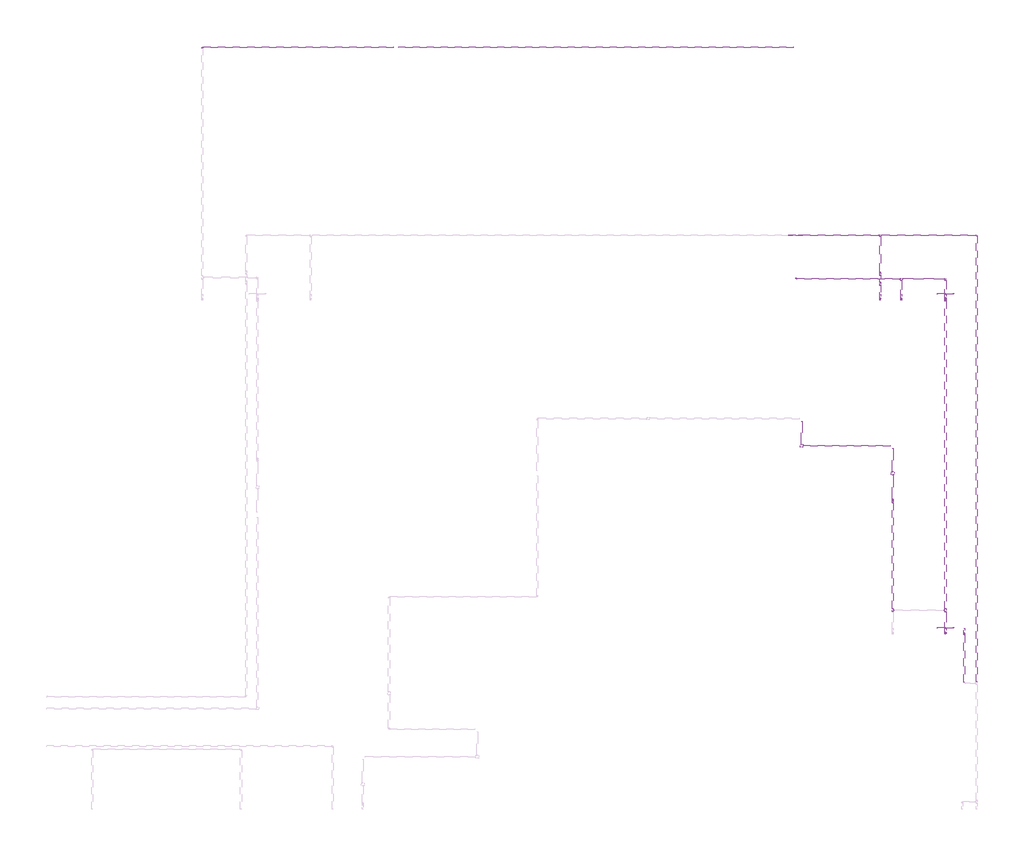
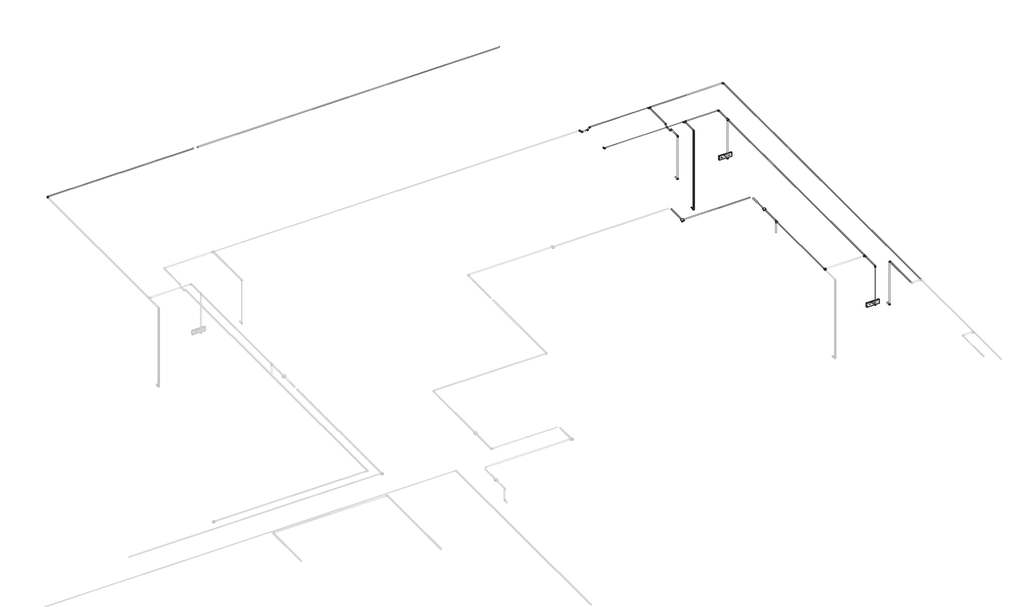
# One storey, part 13 of 13: 36 cable carrier segments, 27 cable carrier fittings, 4 alarms.
"""IFC4 building model written with IfcOpenShell, lengths in millimetres."""

from ifc_helpers import new_model, si_unit, point, frame, frame_2d, origin, place, context, project, spatial, circle_curve, trimmed, segment, composite_curve, outline, extrude, transform, mapped, element, save
from components import alarm_4b7e8fd8, alarm_a2247946, cable_carrier_fitting_69f1a801, cable_carrier_fitting_8122f9af, cable_carrier_fitting_8fd13dfc

model = new_model("IFC4")

# Units and contexts
model_context = context("Model", 3, world=origin())
ifc_project = project(units=[si_unit("LENGTHUNIT", "METRE", prefix="MILLI")], contexts=[model_context])

# Site, building, storey
site = spatial("IfcSite", under=ifc_project)
building = spatial("IfcBuilding", under=site)
storey = spatial("IfcBuildingStorey", under=building, Name="2 этаж", Elevation=3500.0)

# Alarms
placement = place(None, origin())
alarm_shape = alarm_4b7e8fd8(model_context)
element("IfcAlarm", 1, ObjectType="RBZ_Оповещатель_Световой_Рубеж_ОПОП1-R3(грань) : ОПОП 1-R3 \"Выход\"", at=placement, inside=storey, context=model_context, shape_type="MappedRepresentation", body=[
    mapped(alarm_shape, transform((19112.6759979, 12704.6370105, 6000.0), x_axis=(-1.0, 0.0, 0.0), y_axis=(0.0, 0.0, 1.0), z_axis=(0.0, 1.0, 0.0))),
])
element("IfcAlarm", 2, ObjectType="RBZ_Оповещатель_Световой_Рубеж_ОПОП1-R3(грань) : ОПОП 1-R3 \"Выход\"", at=placement, inside=storey, context=model_context, shape_type="MappedRepresentation", body=[
    mapped(alarm_shape, transform((19112.6759979, 6624.6370105, 6000.0), x_axis=(-1.0, 0.0, 0.0), y_axis=(0.0, 0.0, 1.0), z_axis=(0.0, 1.0, 0.0))),
])
alarm_2_shape = alarm_a2247946(model_context)
element("IfcAlarm", 3, ObjectType="RBZ_ИзоляторШлейфа_Рубеж_ИЗ-1_прот.R3(плоскость) : ИЗ-1 прот.R3", at=placement, inside=storey, context=model_context, shape_type="MappedRepresentation", body=[
    mapped(alarm_2_shape, transform((16495.1759979, 9944.6370105, 6997.7), x_axis=(1.0, 0.0, 0.0), y_axis=(0.0, 1.0, 0.0), z_axis=(0.0, 0.0, 1.0))),
])
element("IfcAlarm", 4, ObjectType="RBZ_ИзоляторШлейфа_Рубеж_ИЗ-1_прот.R3(плоскость) : ИЗ-1 прот.R3", at=placement, inside=storey, context=model_context, shape_type="MappedRepresentation", body=[
    mapped(alarm_2_shape, transform((18152.6759979, 9444.6370105, 6997.7), x_axis=(1.0, 0.0, 0.0), y_axis=(0.0, 1.0, 0.0), z_axis=(0.0, 0.0, 1.0))),
])

# Cable carrier fittings
cable_carrier_fitting_shape = cable_carrier_fitting_69f1a801(model_context)
element("IfcCableCarrierFitting", 5, ObjectType="ADSK_Поворот_Минимальный размер : Неспецифицируемый", at=placement, inside=storey, context=model_context, shape_type="MappedRepresentation", body=[
    mapped(cable_carrier_fitting_shape, transform((16387.6759979, 12984.6370105, 6986.9498328), x_axis=(0.0, -1.0, 0.0), y_axis=(1.0, 0.0, 0.0), z_axis=(0.0, 0.0, 1.0))),
])
element("IfcCableCarrierFitting", 6, ObjectType="ADSK_Поворот_Минимальный размер : Неспецифицируемый", at=placement, inside=storey, context=model_context, shape_type="MappedRepresentation", body=[
    mapped(cable_carrier_fitting_shape, transform((5582.6759979, 17204.6370105, 6986.95), x_axis=(-1.0, 0.0, 0.0), y_axis=(0.0, -1.0, 0.0), z_axis=(0.0, 0.0, 1.0))),
])
element("IfcCableCarrierFitting", 7, ObjectType="ADSK_Поворот_Минимальный размер : Неспецифицируемый", at=placement, inside=storey, context=model_context, shape_type="MappedRepresentation", body=[
    mapped(cable_carrier_fitting_shape, transform((19682.6759979, 13781.6519004, 6990.0), x_axis=(0.0, 1.0, 0.0), y_axis=(-1.0, 0.0, 0.0), z_axis=(0.0, 0.0, 1.0))),
])
element("IfcCableCarrierFitting", 8, ObjectType="ADSK_Поворот_Минимальный размер : Неспецифицируемый", at=placement, inside=storey, context=model_context, shape_type="MappedRepresentation", body=[
    mapped(cable_carrier_fitting_shape, transform((17922.6759979, 12607.4372049, 5897.4861504), x_axis=(0.0, -1.0, 0.0), y_axis=(0.0, 0.0, 1.0), z_axis=(-1.0, 0.0, 0.0))),
])
element("IfcCableCarrierFitting", 9, ObjectType="ADSK_Поворот_Минимальный размер : Неспецифицируемый", at=placement, inside=storey, context=model_context, shape_type="MappedRepresentation", body=[
    mapped(cable_carrier_fitting_shape, transform((17922.6759979, 12607.4372049, 6990.0), x_axis=(0.0, 0.0, 1.0), y_axis=(0.0, 1.0, 0.0), z_axis=(-1.0, 0.0, 0.0))),
])
element("IfcCableCarrierFitting", 10, ObjectType="ADSK_Поворот_Минимальный размер : Неспецифицируемый", at=placement, inside=storey, context=model_context, shape_type="MappedRepresentation", body=[
    mapped(cable_carrier_fitting_shape, transform((19452.6759979, 6527.4372049, 5897.4861504), x_axis=(0.0, -1.0, 0.0), y_axis=(0.0, 0.0, 1.0), z_axis=(-1.0, 0.0, 0.0))),
])
element("IfcCableCarrierFitting", 11, ObjectType="ADSK_Поворот_Минимальный размер : Неспецифицируемый", at=placement, inside=storey, context=model_context, shape_type="MappedRepresentation", body=[
    mapped(cable_carrier_fitting_shape, transform((19452.6759979, 6527.4372049, 6990.0), x_axis=(0.0, 0.0, 1.0), y_axis=(0.0, -1.0, 0.0), z_axis=(1.0, 0.0, 0.0))),
])
element("IfcCableCarrierFitting", 12, ObjectType="ADSK_Поворот_Минимальный размер : Неспецифицируемый", at=placement, inside=storey, context=model_context, shape_type="MappedRepresentation", body=[
    mapped(cable_carrier_fitting_shape, transform((19112.6759979, 6527.4372049, 6000.0), x_axis=(0.0, -1.0, 0.0), y_axis=(0.0, 0.0, 1.0), z_axis=(-1.0, 0.0, 0.0))),
])
element("IfcCableCarrierFitting", 13, ObjectType="ADSK_Поворот_Минимальный размер : Неспецифицируемый", at=placement, inside=storey, context=model_context, shape_type="MappedRepresentation", body=[
    mapped(cable_carrier_fitting_shape, transform((19112.6759979, 6527.4372049, 6986.9498328), x_axis=(0.0, 0.0, 1.0), y_axis=(0.0, 1.0, 0.0), z_axis=(-1.0, 0.0, 0.0))),
])
element("IfcCableCarrierFitting", 14, ObjectType="ADSK_Поворот_Минимальный размер : Неспецифицируемый", at=placement, inside=storey, context=model_context, shape_type="MappedRepresentation", body=[
    mapped(cable_carrier_fitting_shape, transform((19112.6759979, 12607.4372049, 6000.0), x_axis=(0.0, -1.0, 0.0), y_axis=(0.0, 0.0, 1.0), z_axis=(-1.0, 0.0, 0.0))),
])
element("IfcCableCarrierFitting", 15, ObjectType="ADSK_Поворот_Минимальный размер : Неспецифицируемый", at=placement, inside=storey, context=model_context, shape_type="MappedRepresentation", body=[
    mapped(cable_carrier_fitting_shape, transform((19112.6759979, 12984.6370105, 6986.9498328), x_axis=(0.0, 1.0, 0.0), y_axis=(-1.0, 0.0, 0.0), z_axis=(0.0, 0.0, 1.0))),
])
element("IfcCableCarrierFitting", 16, ObjectType="ADSK_Поворот_Минимальный размер : Неспецифицируемый", at=placement, inside=storey, context=model_context, shape_type="MappedRepresentation", body=[
    mapped(cable_carrier_fitting_shape, transform((18305.1759979, 12607.4372049, 5000.0), x_axis=(0.0, -1.0, 0.0), y_axis=(0.0, 0.0, 1.0), z_axis=(-1.0, 0.0, 0.0))),
])
element("IfcCableCarrierFitting", 17, ObjectType="ADSK_Поворот_Минимальный размер : Неспецифицируемый", at=placement, inside=storey, context=model_context, shape_type="MappedRepresentation", body=[
    mapped(cable_carrier_fitting_shape, transform((18305.1759979, 12607.4372049, 6986.9498328), x_axis=(0.0, 0.0, 1.0), y_axis=(0.0, 1.0, 0.0), z_axis=(-1.0, 0.0, 0.0))),
])
cable_carrier_fitting_2_shape = cable_carrier_fitting_8122f9af(model_context)
element("IfcCableCarrierFitting", 18, ObjectType="ADSK_Поворот_Минимальный размер : Неспецифицируемый", at=placement, inside=storey, context=model_context, shape_type="MappedRepresentation", body=[
    mapped(cable_carrier_fitting_2_shape, transform((17922.6759979, 13101.2092818, 6990.0), x_axis=(0.0, -1.0, 0.0), y_axis=(0.0, 0.0, -1.0), z_axis=(1.0, 0.0, 0.0))),
])
element("IfcCableCarrierFitting", 19, ObjectType="ADSK_Поворот_Минимальный размер : Неспецифицируемый", at=placement, inside=storey, context=model_context, shape_type="MappedRepresentation", body=[
    mapped(cable_carrier_fitting_2_shape, transform((17922.6759979, 13051.2092818, 6940.0), x_axis=(0.0, -0.7071067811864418, -0.7071067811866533), y_axis=(0.0, -0.7071067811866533, 0.7071067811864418), z_axis=(-1.0, 0.0, 0.0))),
])
element("IfcCableCarrierFitting", 20, ObjectType="ADSK_Поворот_Минимальный размер : Неспецифицируемый", at=placement, inside=storey, context=model_context, shape_type="MappedRepresentation", body=[
    mapped(cable_carrier_fitting_2_shape, transform((17922.6759979, 12918.0647393, 6940.0), x_axis=(0.0, -1.0, 0.0), y_axis=(0.0, 0.0, 1.0), z_axis=(-1.0, 0.0, 0.0))),
])
element("IfcCableCarrierFitting", 21, ObjectType="ADSK_Поворот_Минимальный размер : Неспецифицируемый", at=placement, inside=storey, context=model_context, shape_type="MappedRepresentation", body=[
    mapped(cable_carrier_fitting_2_shape, transform((17922.6759979, 12868.0647393, 6990.0), x_axis=(0.0, -0.7071067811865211, 0.707106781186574), y_axis=(0.0, -0.707106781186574, -0.7071067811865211), z_axis=(1.0, 0.0, 0.0))),
])
element("IfcCableCarrierFitting", 22, ObjectType="ADSK_Поворот_Минимальный размер : Неспецифицируемый", at=placement, inside=storey, context=model_context, shape_type="MappedRepresentation", body=[
    mapped(cable_carrier_fitting_2_shape, transform((16271.1037266, 13781.6519004, 6990.0), x_axis=(1.0, 0.0, 0.0), y_axis=(0.0, 0.0, -1.0), z_axis=(0.0, 1.0, 0.0))),
])
element("IfcCableCarrierFitting", 23, ObjectType="ADSK_Поворот_Минимальный размер : Неспецифицируемый", at=placement, inside=storey, context=model_context, shape_type="MappedRepresentation", body=[
    mapped(cable_carrier_fitting_2_shape, transform((16321.1037266, 13781.6519004, 6940.0), x_axis=(0.70710678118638, 0.0, -0.707106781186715), y_axis=(0.707106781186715, 0.0, 0.70710678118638), z_axis=(0.0, -1.0, 0.0))),
])
element("IfcCableCarrierFitting", 24, ObjectType="ADSK_Поворот_Минимальный размер : Неспецифицируемый", at=placement, inside=storey, context=model_context, shape_type="MappedRepresentation", body=[
    mapped(cable_carrier_fitting_2_shape, transform((16454.2482691, 13781.6519004, 6940.0), x_axis=(1.0, 0.0, 0.0), y_axis=(0.0, 0.0, 1.0), z_axis=(0.0, -1.0, 0.0))),
])
element("IfcCableCarrierFitting", 25, ObjectType="ADSK_Поворот_Минимальный размер : Неспецифицируемый", at=placement, inside=storey, context=model_context, shape_type="MappedRepresentation", body=[
    mapped(cable_carrier_fitting_2_shape, transform((16504.2482691, 13781.6519004, 6990.0), x_axis=(0.7071067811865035, 0.0, 0.7071067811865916), y_axis=(0.7071067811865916, 0.0, -0.7071067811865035), z_axis=(0.0, 1.0, 0.0))),
])
cable_carrier_fitting_3_shape = cable_carrier_fitting_8fd13dfc(model_context)
element("IfcCableCarrierFitting", 26, ObjectType="ADSK_Тройник : ПВХ", at=placement, inside=storey, context=model_context, shape_type="MappedRepresentation", body=[
    mapped(cable_carrier_fitting_3_shape, transform((18305.1759979, 12984.6370105, 6986.9498328), x_axis=(1.0, 0.0, 0.0), y_axis=(0.0, 1.0, 0.0), z_axis=(0.0, 0.0, 1.0))),
])
element("IfcCableCarrierFitting", 27, ObjectType="ADSK_Тройник : ПВХ", at=placement, inside=storey, context=model_context, shape_type="MappedRepresentation", body=[
    mapped(cable_carrier_fitting_3_shape, transform((17922.6759979, 13781.6519004, 6990.0), x_axis=(1.0, 0.0, 0.0), y_axis=(0.0, 1.0, 0.0), z_axis=(0.0, 0.0, 1.0))),
])
element("IfcCableCarrierFitting", 28, ObjectType="ADSK_Тройник : ПВХ", at=placement, inside=storey, context=model_context, shape_type="MappedRepresentation", body=[
    mapped(cable_carrier_fitting_3_shape, transform((19112.6759979, 6954.6370105, 6986.9498328), x_axis=(0.0, -1.0, 0.0), y_axis=(1.0, 0.0, 0.0), z_axis=(0.0, 0.0, 1.0))),
])
element("IfcCableCarrierFitting", 29, ObjectType="ADSK_Тройник : ПВХ", at=placement, inside=storey, context=model_context, shape_type="MappedRepresentation", body=[
    mapped(cable_carrier_fitting_3_shape, transform((18152.6759979, 8944.6370105, 6986.95), x_axis=(0.0, 1.0, 0.0), y_axis=(0.0, 0.0, 1.0), z_axis=(1.0, 0.0, 0.0))),
])
element("IfcCableCarrierFitting", 30, ObjectType="ADSK_Тройник : ПВХ", at=placement, inside=storey, context=model_context, shape_type="MappedRepresentation", body=[
    mapped(cable_carrier_fitting_3_shape, transform((18152.6759979, 6954.6370105, 6986.95), x_axis=(0.0, 1.0, 0.0), y_axis=(-0.999999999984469, 0.0, 5.573337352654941e-06), z_axis=(5.573337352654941e-06, 0.0, 0.999999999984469))),
])
element("IfcCableCarrierFitting", 31, ObjectType="ADSK_Тройник : ПВХ", at=placement, inside=storey, context=model_context, shape_type="MappedRepresentation", body=[
    mapped(cable_carrier_fitting_3_shape, transform((19112.6759979, 12607.4372049, 6986.9498328), x_axis=(0.0, -1.0, 0.0), y_axis=(0.0, 0.0, 1.0), z_axis=(-1.0, 0.0, 0.0))),
])

# Cable carrier segments
element("IfcCableCarrierSegment", 32, ObjectType="Гофрированная труба", at=placement, inside=storey, context=model_context, shape_type="SweptSolid", body=[
    extrude(outline(composite_curve([segment(trimmed(circle_curve(frame_2d((12984.6370105, 6986.9498328)), 10.0), [point((12974.6370105, 6986.9498328))], [point((12984.6370105, 6996.9498328))], False, "CARTESIAN"), True, "CONTINUOUS"), segment(trimmed(circle_curve(frame_2d((12984.6370105, 6986.9498328)), 10.0), [point((12984.6370105, 6996.9498328))], [point((12994.6370105, 6986.9498328))], False, "CARTESIAN"), True, "CONTINUOUS"), segment(trimmed(circle_curve(frame_2d((12984.6370105, 6986.9498328)), 10.0), [point((12994.6370105, 6986.9498328))], [point((12984.6370105, 6976.9498328))], False, "CARTESIAN"), True, "CONTINUOUS"), segment(trimmed(circle_curve(frame_2d((12984.6370105, 6986.9498328)), 10.0), [point((12984.6370105, 6976.9498328))], [point((12974.6370105, 6986.9498328))], False, "CARTESIAN"), True, "CONTINUOUS")], self_intersect=False)), frame((16408.6759979, 0.0, 0.0), z_axis=(1.0, 0.0, 0.0), x_axis=(0.0, 1.0, 0.0)), (0.0, 0.0, 1.0), 1866.5),
])
element("IfcCableCarrierSegment", 33, ObjectType="Гофрированная труба", at=placement, inside=storey, context=model_context, shape_type="SweptSolid", body=[
    extrude(outline(composite_curve([segment(trimmed(circle_curve(frame_2d((12984.6370105, 6986.9498328)), 10.0), [point((12994.6370105, 6986.9498328))], [point((12984.6370105, 6976.9498328))], False, "CARTESIAN"), True, "CONTINUOUS"), segment(trimmed(circle_curve(frame_2d((12984.6370105, 6986.9498328)), 10.0), [point((12984.6370105, 6976.9498328))], [point((12974.6370105, 6986.9498328))], False, "CARTESIAN"), True, "CONTINUOUS"), segment(trimmed(circle_curve(frame_2d((12984.6370105, 6986.9498328)), 10.0), [point((12974.6370105, 6986.9498328))], [point((12984.6370105, 6996.9498328))], False, "CARTESIAN"), True, "CONTINUOUS"), segment(trimmed(circle_curve(frame_2d((12984.6370105, 6986.9498328)), 10.0), [point((12984.6370105, 6996.9498328))], [point((12994.6370105, 6986.9498328))], False, "CARTESIAN"), True, "CONTINUOUS")], self_intersect=False)), frame((18335.1759979, 0.0, 0.0), z_axis=(1.0, 0.0, 0.0), x_axis=(0.0, 1.0, 0.0)), (0.0, 0.0, 1.0), 756.5),
])
element("IfcCableCarrierSegment", 34, ObjectType="Гофрированная труба", at=placement, inside=storey, context=model_context, shape_type="SweptSolid", body=[
    extrude(outline(composite_curve([segment(trimmed(circle_curve(frame_2d((17204.6370105, 6986.95)), 10.0), [point((17194.6370105, 6986.95))], [point((17204.6370105, 6996.95))], False, "CARTESIAN"), True, "CONTINUOUS"), segment(trimmed(circle_curve(frame_2d((17204.6370105, 6986.95)), 10.0), [point((17204.6370105, 6996.95))], [point((17214.6370105, 6986.95))], False, "CARTESIAN"), True, "CONTINUOUS"), segment(trimmed(circle_curve(frame_2d((17204.6370105, 6986.95)), 10.0), [point((17214.6370105, 6986.95))], [point((17204.6370105, 6976.95))], False, "CARTESIAN"), True, "CONTINUOUS"), segment(trimmed(circle_curve(frame_2d((17204.6370105, 6986.95)), 10.0), [point((17204.6370105, 6976.95))], [point((17194.6370105, 6986.95))], False, "CARTESIAN"), True, "CONTINUOUS")], self_intersect=False)), frame((9154.1759979, 0.0, 0.0), z_axis=(1.0, 0.0, 0.0), x_axis=(0.0, 1.0, 0.0)), (0.0, 0.0, 1.0), 7187.0),
])
element("IfcCableCarrierSegment", 35, ObjectType="Гофрированная труба", at=placement, inside=storey, context=model_context, shape_type="SweptSolid", body=[
    extrude(outline(composite_curve([segment(trimmed(circle_curve(frame_2d((17204.6370105, 6986.95)), 10.0), [point((17194.6370105, 6986.95))], [point((17204.6370105, 6996.95))], False, "CARTESIAN"), True, "CONTINUOUS"), segment(trimmed(circle_curve(frame_2d((17204.6370105, 6986.95)), 10.0), [point((17204.6370105, 6996.95))], [point((17214.6370105, 6986.95))], False, "CARTESIAN"), True, "CONTINUOUS"), segment(trimmed(circle_curve(frame_2d((17204.6370105, 6986.95)), 10.0), [point((17214.6370105, 6986.95))], [point((17204.6370105, 6976.95))], False, "CARTESIAN"), True, "CONTINUOUS"), segment(trimmed(circle_curve(frame_2d((17204.6370105, 6986.95)), 10.0), [point((17204.6370105, 6976.95))], [point((17194.6370105, 6986.95))], False, "CARTESIAN"), True, "CONTINUOUS")], self_intersect=False)), frame((5603.6759979, 0.0, 0.0), z_axis=(1.0, 0.0, 0.0), x_axis=(0.0, 1.0, 0.0)), (0.0, 0.0, 1.0), 3457.5),
])
element("IfcCableCarrierSegment", 36, ObjectType="Гофрированная труба", at=placement, inside=storey, context=model_context, shape_type="SweptSolid", body=[
    extrude(outline(composite_curve([segment(trimmed(circle_curve(frame_2d((6986.95, 16495.1759979)), 10.0), [point((6986.95, 16505.1759979))], [point((6996.95, 16495.1759979))], False, "CARTESIAN"), True, "CONTINUOUS"), segment(trimmed(circle_curve(frame_2d((6986.95, 16495.1759979)), 10.0), [point((6996.95, 16495.1759979))], [point((6986.95, 16485.1759979))], False, "CARTESIAN"), True, "CONTINUOUS"), segment(trimmed(circle_curve(frame_2d((6986.95, 16495.1759979)), 10.0), [point((6986.95, 16485.1759979))], [point((6976.95, 16495.1759979))], False, "CARTESIAN"), True, "CONTINUOUS"), segment(trimmed(circle_curve(frame_2d((6986.95, 16495.1759979)), 10.0), [point((6976.95, 16495.1759979))], [point((6986.95, 16505.1759979))], False, "CARTESIAN"), True, "CONTINUOUS")], self_intersect=False)), frame((0.0, 9970.6370105, 0.0), z_axis=(0.0, 1.0, 0.0), x_axis=(0.0, 0.0, 1.0)), (0.0, 0.0, 1.0), 427.5),
])
element("IfcCableCarrierSegment", 37, ObjectType="Гофрированная труба", at=placement, inside=storey, context=model_context, shape_type="SweptSolid", body=[
    extrude(outline(composite_curve([segment(trimmed(circle_curve(frame_2d((9944.6370105, 6986.95)), 10.0), [point((9934.6370105, 6986.95))], [point((9944.6370105, 6996.95))], False, "CARTESIAN"), True, "CONTINUOUS"), segment(trimmed(circle_curve(frame_2d((9944.6370105, 6986.95)), 10.0), [point((9944.6370105, 6996.95))], [point((9954.6370105, 6986.95))], False, "CARTESIAN"), True, "CONTINUOUS"), segment(trimmed(circle_curve(frame_2d((9944.6370105, 6986.95)), 10.0), [point((9954.6370105, 6986.95))], [point((9944.6370105, 6976.95))], False, "CARTESIAN"), True, "CONTINUOUS"), segment(trimmed(circle_curve(frame_2d((9944.6370105, 6986.95)), 10.0), [point((9944.6370105, 6976.95))], [point((9934.6370105, 6986.95))], False, "CARTESIAN"), True, "CONTINUOUS")], self_intersect=False)), frame((16521.1759979, 0.0, 0.0), z_axis=(1.0, 0.0, 0.0), x_axis=(0.0, 1.0, 0.0)), (0.0, 0.0, 1.0), 1585.0),
])
element("IfcCableCarrierSegment", 38, ObjectType="Гофрированная труба", at=placement, inside=storey, context=model_context, shape_type="SweptSolid", body=[
    extrude(outline(composite_curve([segment(trimmed(circle_curve(frame_2d((6986.95, 18152.6759979)), 10.0), [point((6986.95, 18162.6759979))], [point((6996.95, 18152.6759979))], False, "CARTESIAN"), True, "CONTINUOUS"), segment(trimmed(circle_curve(frame_2d((6986.95, 18152.6759979)), 10.0), [point((6996.95, 18152.6759979))], [point((6986.95, 18142.6759979))], False, "CARTESIAN"), True, "CONTINUOUS"), segment(trimmed(circle_curve(frame_2d((6986.95, 18152.6759979)), 10.0), [point((6986.95, 18142.6759979))], [point((6976.95, 18152.6759979))], False, "CARTESIAN"), True, "CONTINUOUS"), segment(trimmed(circle_curve(frame_2d((6986.95, 18152.6759979)), 10.0), [point((6976.95, 18152.6759979))], [point((6986.95, 18162.6759979))], False, "CARTESIAN"), True, "CONTINUOUS")], self_intersect=False)), frame((0.0, 9470.6370105, 0.0), z_axis=(0.0, 1.0, 0.0), x_axis=(0.0, 0.0, 1.0)), (0.0, 0.0, 1.0), 427.5),
])
element("IfcCableCarrierSegment", 39, ObjectType="Гофрированная труба", at=placement, inside=storey, context=model_context, shape_type="SweptSolid", body=[
    extrude(outline(composite_curve([segment(trimmed(circle_curve(frame_2d((18152.6759979, 8944.6370105)), 10.0), [point((18142.6759979, 8944.6370105))], [point((18152.6759979, 8954.6370105))], False, "CARTESIAN"), True, "CONTINUOUS"), segment(trimmed(circle_curve(frame_2d((18152.6759979, 8944.6370105)), 10.0), [point((18152.6759979, 8954.6370105))], [point((18162.6759979, 8944.6370105))], False, "CARTESIAN"), True, "CONTINUOUS"), segment(trimmed(circle_curve(frame_2d((18152.6759979, 8944.6370105)), 10.0), [point((18162.6759979, 8944.6370105))], [point((18152.6759979, 8934.6370105))], False, "CARTESIAN"), True, "CONTINUOUS"), segment(trimmed(circle_curve(frame_2d((18152.6759979, 8944.6370105)), 10.0), [point((18152.6759979, 8934.6370105))], [point((18142.6759979, 8944.6370105))], False, "CARTESIAN"), True, "CONTINUOUS")], self_intersect=False)), frame((0.0, 0.0, 6700.0), z_axis=(0.0, 0.0, 1.0), x_axis=(1.0, 0.0, 0.0)), (0.0, 0.0, 1.0), 256.95),
])
element("IfcCableCarrierSegment", 40, ObjectType="Гофрированная труба", at=placement, inside=storey, context=model_context, shape_type="SweptSolid", body=[
    extrude(outline(composite_curve([segment(trimmed(circle_curve(frame_2d((13781.6519004, 6990.0)), 10.0), [point((13771.6519004, 6990.0))], [point((13781.6519004, 7000.0))], False, "CARTESIAN"), True, "CONTINUOUS"), segment(trimmed(circle_curve(frame_2d((13781.6519004, 6990.0)), 10.0), [point((13781.6519004, 7000.0))], [point((13791.6519004, 6990.0))], False, "CARTESIAN"), True, "CONTINUOUS"), segment(trimmed(circle_curve(frame_2d((13781.6519004, 6990.0)), 10.0), [point((13791.6519004, 6990.0))], [point((13781.6519004, 6980.0))], False, "CARTESIAN"), True, "CONTINUOUS"), segment(trimmed(circle_curve(frame_2d((13781.6519004, 6990.0)), 10.0), [point((13781.6519004, 6980.0))], [point((13771.6519004, 6990.0))], False, "CARTESIAN"), True, "CONTINUOUS")], self_intersect=False)), frame((17952.6759979, 0.0, 0.0), z_axis=(1.0, 0.0, 0.0), x_axis=(0.0, 1.0, 0.0)), (0.0, 0.0, 1.0), 1709.0),
])
element("IfcCableCarrierSegment", 41, ObjectType="Гофрированная труба", at=placement, inside=storey, context=model_context, shape_type="SweptSolid", body=[
    extrude(outline(composite_curve([segment(trimmed(circle_curve(frame_2d((6940.0, 17922.6759979)), 10.0), [point((6940.0, 17912.6759979))], [point((6930.0, 17922.6759979))], False, "CARTESIAN"), True, "CONTINUOUS"), segment(trimmed(circle_curve(frame_2d((6940.0, 17922.6759979)), 10.0), [point((6930.0, 17922.6759979))], [point((6940.0, 17932.6759979))], False, "CARTESIAN"), True, "CONTINUOUS"), segment(trimmed(circle_curve(frame_2d((6940.0, 17922.6759979)), 10.0), [point((6940.0, 17932.6759979))], [point((6950.0, 17922.6759979))], False, "CARTESIAN"), True, "CONTINUOUS"), segment(trimmed(circle_curve(frame_2d((6940.0, 17922.6759979)), 10.0), [point((6950.0, 17922.6759979))], [point((6940.0, 17912.6759979))], False, "CARTESIAN"), True, "CONTINUOUS")], self_intersect=False)), frame((0.0, 12927.3490105, 0.0), z_axis=(0.0, 1.0, 0.0), x_axis=(0.0, 0.0, 1.0)), (0.0, 0.0, 1.0), 114.576),
])
element("IfcCableCarrierSegment", 42, ObjectType="Гофрированная труба", at=placement, inside=storey, context=model_context, shape_type="SweptSolid", body=[
    extrude(outline(composite_curve([segment(trimmed(circle_curve(frame_2d((5897.4861504, 17922.6759979)), 10.0), [point((5897.4861504, 17912.6759979))], [point((5887.4861504, 17922.6759979))], False, "CARTESIAN"), True, "CONTINUOUS"), segment(trimmed(circle_curve(frame_2d((5897.4861504, 17922.6759979)), 10.0), [point((5887.4861504, 17922.6759979))], [point((5897.4861504, 17932.6759979))], False, "CARTESIAN"), True, "CONTINUOUS"), segment(trimmed(circle_curve(frame_2d((5897.4861504, 17922.6759979)), 10.0), [point((5897.4861504, 17932.6759979))], [point((5907.4861504, 17922.6759979))], False, "CARTESIAN"), True, "CONTINUOUS"), segment(trimmed(circle_curve(frame_2d((5897.4861504, 17922.6759979)), 10.0), [point((5907.4861504, 17922.6759979))], [point((5897.4861504, 17912.6759979))], False, "CARTESIAN"), True, "CONTINUOUS")], self_intersect=False)), frame((0.0, 12628.4372049, 0.0), z_axis=(0.0, 1.0, 0.0), x_axis=(0.0, 0.0, 1.0)), (0.0, 0.0, 1.0), 76.1998056),
])
element("IfcCableCarrierSegment", 43, ObjectType="Гофрированная труба", at=placement, inside=storey, context=model_context, shape_type="SweptSolid", body=[
    extrude(outline(composite_curve([segment(trimmed(circle_curve(frame_2d((17922.6759979, 12607.4372049)), 10.0), [point((17912.6759979, 12607.4372049))], [point((17922.6759979, 12617.4372049))], False, "CARTESIAN"), True, "CONTINUOUS"), segment(trimmed(circle_curve(frame_2d((17922.6759979, 12607.4372049)), 10.0), [point((17922.6759979, 12617.4372049))], [point((17932.6759979, 12607.4372049))], False, "CARTESIAN"), True, "CONTINUOUS"), segment(trimmed(circle_curve(frame_2d((17922.6759979, 12607.4372049)), 10.0), [point((17932.6759979, 12607.4372049))], [point((17922.6759979, 12597.4372049))], False, "CARTESIAN"), True, "CONTINUOUS"), segment(trimmed(circle_curve(frame_2d((17922.6759979, 12607.4372049)), 10.0), [point((17922.6759979, 12597.4372049))], [point((17912.6759979, 12607.4372049))], False, "CARTESIAN"), True, "CONTINUOUS")], self_intersect=False)), frame((0.0, 0.0, 5918.4861504), z_axis=(0.0, 0.0, 1.0), x_axis=(1.0, 0.0, 0.0)), (0.0, 0.0, 1.0), 1050.5138496),
])
element("IfcCableCarrierSegment", 44, ObjectType="Гофрированная труба", at=placement, inside=storey, context=model_context, shape_type="SweptSolid", body=[
    extrude(outline(composite_curve([segment(trimmed(circle_curve(frame_2d((13781.6519004, 6940.0)), 10.0), [point((13771.6519004, 6940.0))], [point((13781.6519004, 6950.0))], False, "CARTESIAN"), True, "CONTINUOUS"), segment(trimmed(circle_curve(frame_2d((13781.6519004, 6940.0)), 10.0), [point((13781.6519004, 6950.0))], [point((13791.6519004, 6940.0))], False, "CARTESIAN"), True, "CONTINUOUS"), segment(trimmed(circle_curve(frame_2d((13781.6519004, 6940.0)), 10.0), [point((13791.6519004, 6940.0))], [point((13781.6519004, 6930.0))], False, "CARTESIAN"), True, "CONTINUOUS"), segment(trimmed(circle_curve(frame_2d((13781.6519004, 6940.0)), 10.0), [point((13781.6519004, 6930.0))], [point((13771.6519004, 6940.0))], False, "CARTESIAN"), True, "CONTINUOUS")], self_intersect=False)), frame((16330.3879979, 0.0, 0.0), z_axis=(1.0, 0.0, 0.0), x_axis=(0.0, 1.0, 0.0)), (0.0, 0.0, 1.0), 114.576),
])
element("IfcCableCarrierSegment", 45, ObjectType="Гофрированная труба", at=placement, inside=storey, context=model_context, shape_type="SweptSolid", body=[
    extrude(outline(composite_curve([segment(trimmed(circle_curve(frame_2d((6990.0, 19452.6759979)), 10.0), [point((6990.0, 19442.6759979))], [point((6980.0, 19452.6759979))], False, "CARTESIAN"), True, "CONTINUOUS"), segment(trimmed(circle_curve(frame_2d((6990.0, 19452.6759979)), 10.0), [point((6980.0, 19452.6759979))], [point((6990.0, 19462.6759979))], False, "CARTESIAN"), True, "CONTINUOUS"), segment(trimmed(circle_curve(frame_2d((6990.0, 19452.6759979)), 10.0), [point((6990.0, 19462.6759979))], [point((7000.0, 19452.6759979))], False, "CARTESIAN"), True, "CONTINUOUS"), segment(trimmed(circle_curve(frame_2d((6990.0, 19452.6759979)), 10.0), [point((7000.0, 19452.6759979))], [point((6990.0, 19442.6759979))], False, "CARTESIAN"), True, "CONTINUOUS")], self_intersect=False)), frame((0.0, 5645.6370105, 0.0), z_axis=(0.0, 1.0, 0.0), x_axis=(0.0, 0.0, 1.0)), (0.0, 0.0, 1.0), 860.8001944),
])
element("IfcCableCarrierSegment", 46, ObjectType="Гофрированная труба", at=placement, inside=storey, context=model_context, shape_type="SweptSolid", body=[
    extrude(outline(composite_curve([segment(trimmed(circle_curve(frame_2d((5897.4861504, 19452.6759979)), 10.0), [point((5897.4861504, 19442.6759979))], [point((5887.4861504, 19452.6759979))], False, "CARTESIAN"), True, "CONTINUOUS"), segment(trimmed(circle_curve(frame_2d((5897.4861504, 19452.6759979)), 10.0), [point((5887.4861504, 19452.6759979))], [point((5897.4861504, 19462.6759979))], False, "CARTESIAN"), True, "CONTINUOUS"), segment(trimmed(circle_curve(frame_2d((5897.4861504, 19452.6759979)), 10.0), [point((5897.4861504, 19462.6759979))], [point((5907.4861504, 19452.6759979))], False, "CARTESIAN"), True, "CONTINUOUS"), segment(trimmed(circle_curve(frame_2d((5897.4861504, 19452.6759979)), 10.0), [point((5907.4861504, 19452.6759979))], [point((5897.4861504, 19442.6759979))], False, "CARTESIAN"), True, "CONTINUOUS")], self_intersect=False)), frame((0.0, 6548.4372049, 0.0), z_axis=(0.0, 1.0, 0.0), x_axis=(0.0, 0.0, 1.0)), (0.0, 0.0, 1.0), 76.1998056),
])
element("IfcCableCarrierSegment", 47, ObjectType="Гофрированная труба", at=placement, inside=storey, context=model_context, shape_type="SweptSolid", body=[
    extrude(outline(composite_curve([segment(trimmed(circle_curve(frame_2d((19452.6759979, 6527.4372049)), 10.0), [point((19442.6759979, 6527.4372049))], [point((19452.6759979, 6537.4372049))], False, "CARTESIAN"), True, "CONTINUOUS"), segment(trimmed(circle_curve(frame_2d((19452.6759979, 6527.4372049)), 10.0), [point((19452.6759979, 6537.4372049))], [point((19462.6759979, 6527.4372049))], False, "CARTESIAN"), True, "CONTINUOUS"), segment(trimmed(circle_curve(frame_2d((19452.6759979, 6527.4372049)), 10.0), [point((19462.6759979, 6527.4372049))], [point((19452.6759979, 6517.4372049))], False, "CARTESIAN"), True, "CONTINUOUS"), segment(trimmed(circle_curve(frame_2d((19452.6759979, 6527.4372049)), 10.0), [point((19452.6759979, 6517.4372049))], [point((19442.6759979, 6527.4372049))], False, "CARTESIAN"), True, "CONTINUOUS")], self_intersect=False)), frame((0.0, 0.0, 5918.4861504), z_axis=(0.0, 0.0, 1.0), x_axis=(1.0, 0.0, 0.0)), (0.0, 0.0, 1.0), 1050.5138496),
])
element("IfcCableCarrierSegment", 48, ObjectType="Гофрированная труба", at=placement, inside=storey, context=model_context, shape_type="SweptSolid", body=[
    extrude(outline(composite_curve([segment(trimmed(circle_curve(frame_2d((6990.0, 19682.6759979)), 10.0), [point((6990.0, 19672.6759979))], [point((6980.0, 19682.6759979))], False, "CARTESIAN"), True, "CONTINUOUS"), segment(trimmed(circle_curve(frame_2d((6990.0, 19682.6759979)), 10.0), [point((6980.0, 19682.6759979))], [point((6990.0, 19692.6759979))], False, "CARTESIAN"), True, "CONTINUOUS"), segment(trimmed(circle_curve(frame_2d((6990.0, 19682.6759979)), 10.0), [point((6990.0, 19692.6759979))], [point((7000.0, 19682.6759979))], False, "CARTESIAN"), True, "CONTINUOUS"), segment(trimmed(circle_curve(frame_2d((6990.0, 19682.6759979)), 10.0), [point((7000.0, 19682.6759979))], [point((6990.0, 19672.6759979))], False, "CARTESIAN"), True, "CONTINUOUS")], self_intersect=False)), frame((0.0, 5654.6370105, 0.0), z_axis=(0.0, 1.0, 0.0), x_axis=(0.0, 0.0, 1.0)), (0.0, 0.0, 1.0), 8106.0148898),
])
element("IfcCableCarrierSegment", 49, ObjectType="Гофрированная труба", at=placement, inside=storey, context=model_context, shape_type="SweptSolid", body=[
    extrude(outline(composite_curve([segment(trimmed(circle_curve(frame_2d((6000.0, 19112.6759979)), 10.0), [point((6000.0, 19102.6759979))], [point((5990.0, 19112.6759979))], False, "CARTESIAN"), True, "CONTINUOUS"), segment(trimmed(circle_curve(frame_2d((6000.0, 19112.6759979)), 10.0), [point((5990.0, 19112.6759979))], [point((6000.0, 19122.6759979))], False, "CARTESIAN"), True, "CONTINUOUS"), segment(trimmed(circle_curve(frame_2d((6000.0, 19112.6759979)), 10.0), [point((6000.0, 19122.6759979))], [point((6010.0, 19112.6759979))], False, "CARTESIAN"), True, "CONTINUOUS"), segment(trimmed(circle_curve(frame_2d((6000.0, 19112.6759979)), 10.0), [point((6010.0, 19112.6759979))], [point((6000.0, 19102.6759979))], False, "CARTESIAN"), True, "CONTINUOUS")], self_intersect=False)), frame((0.0, 6548.4372049, 0.0), z_axis=(0.0, 1.0, 0.0), x_axis=(0.0, 0.0, 1.0)), (0.0, 0.0, 1.0), 76.1998056),
])
element("IfcCableCarrierSegment", 50, ObjectType="Гофрированная труба", at=placement, inside=storey, context=model_context, shape_type="SweptSolid", body=[
    extrude(outline(composite_curve([segment(trimmed(circle_curve(frame_2d((19112.6759979, 6527.4372049)), 10.0), [point((19102.6759979, 6527.4372049))], [point((19112.6759979, 6537.4372049))], False, "CARTESIAN"), True, "CONTINUOUS"), segment(trimmed(circle_curve(frame_2d((19112.6759979, 6527.4372049)), 10.0), [point((19112.6759979, 6537.4372049))], [point((19122.6759979, 6527.4372049))], False, "CARTESIAN"), True, "CONTINUOUS"), segment(trimmed(circle_curve(frame_2d((19112.6759979, 6527.4372049)), 10.0), [point((19122.6759979, 6527.4372049))], [point((19112.6759979, 6517.4372049))], False, "CARTESIAN"), True, "CONTINUOUS"), segment(trimmed(circle_curve(frame_2d((19112.6759979, 6527.4372049)), 10.0), [point((19112.6759979, 6517.4372049))], [point((19102.6759979, 6527.4372049))], False, "CARTESIAN"), True, "CONTINUOUS")], self_intersect=False)), frame((0.0, 0.0, 6021.0), z_axis=(0.0, 0.0, 1.0), x_axis=(1.0, 0.0, 0.0)), (0.0, 0.0, 1.0), 944.9498328),
])
element("IfcCableCarrierSegment", 51, ObjectType="Гофрированная труба", at=placement, inside=storey, context=model_context, shape_type="SweptSolid", body=[
    extrude(outline(composite_curve([segment(trimmed(circle_curve(frame_2d((6986.9498328, 19112.6759979)), 10.0), [point((6986.9498328, 19122.6759979))], [point((6996.9498328, 19112.6759979))], False, "CARTESIAN"), True, "CONTINUOUS"), segment(trimmed(circle_curve(frame_2d((6986.9498328, 19112.6759979)), 10.0), [point((6996.9498328, 19112.6759979))], [point((6986.9498328, 19102.6759979))], False, "CARTESIAN"), True, "CONTINUOUS"), segment(trimmed(circle_curve(frame_2d((6986.9498328, 19112.6759979)), 10.0), [point((6986.9498328, 19102.6759979))], [point((6976.9498328, 19112.6759979))], False, "CARTESIAN"), True, "CONTINUOUS"), segment(trimmed(circle_curve(frame_2d((6986.9498328, 19112.6759979)), 10.0), [point((6976.9498328, 19112.6759979))], [point((6986.9498328, 19122.6759979))], False, "CARTESIAN"), True, "CONTINUOUS")], self_intersect=False)), frame((0.0, 6548.4372049, 0.0), z_axis=(0.0, 1.0, 0.0), x_axis=(0.0, 0.0, 1.0)), (0.0, 0.0, 1.0), 376.1998056),
])
element("IfcCableCarrierSegment", 52, ObjectType="Гофрированная труба", at=placement, inside=storey, context=model_context, shape_type="SweptSolid", body=[
    extrude(outline(composite_curve([segment(trimmed(circle_curve(frame_2d((6990.0, 17922.6759979)), 10.0), [point((6990.0, 17912.6759979))], [point((6980.0, 17922.6759979))], False, "CARTESIAN"), True, "CONTINUOUS"), segment(trimmed(circle_curve(frame_2d((6990.0, 17922.6759979)), 10.0), [point((6980.0, 17922.6759979))], [point((6990.0, 17932.6759979))], False, "CARTESIAN"), True, "CONTINUOUS"), segment(trimmed(circle_curve(frame_2d((6990.0, 17922.6759979)), 10.0), [point((6990.0, 17932.6759979))], [point((7000.0, 17922.6759979))], False, "CARTESIAN"), True, "CONTINUOUS"), segment(trimmed(circle_curve(frame_2d((6990.0, 17922.6759979)), 10.0), [point((7000.0, 17922.6759979))], [point((6990.0, 17912.6759979))], False, "CARTESIAN"), True, "CONTINUOUS")], self_intersect=False)), frame((0.0, 13110.493553, 0.0), z_axis=(0.0, 1.0, 0.0), x_axis=(0.0, 0.0, 1.0)), (0.0, 0.0, 1.0), 641.1583473),
])
element("IfcCableCarrierSegment", 53, ObjectType="Гофрированная труба", at=placement, inside=storey, context=model_context, shape_type="SweptSolid", body=[
    extrude(outline(composite_curve([segment(trimmed(circle_curve(frame_2d((0.0, -10.0000001)), 10.0), [point((-10.0, -10.0000001))], [point((0.0, 0.0))], False, "CARTESIAN"), True, "CONTINUOUS"), segment(trimmed(circle_curve(frame_2d((0.0, -10.0000001)), 10.0), [point((0.0, 0.0))], [point((10.0, -10.0000001))], False, "CARTESIAN"), True, "CONTINUOUS"), segment(trimmed(circle_curve(frame_2d((0.0, -10.0000001)), 10.0), [point((10.0, -10.0000001))], [point((0.0, -20.0))], False, "CARTESIAN"), True, "CONTINUOUS"), segment(trimmed(circle_curve(frame_2d((0.0, -10.0000001)), 10.0), [point((0.0, -20.0))], [point((-10.0, -10.0000001))], False, "CARTESIAN"), True, "CONTINUOUS")], self_intersect=False)), frame((17922.6759979, 13064.8453207, 6939.4939033), z_axis=(0.0, 0.707106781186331, 0.7071067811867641), x_axis=(1.0, 0.0, 0.0)), (0.0, 0.0, 1.0), 52.1421356),
])
element("IfcCableCarrierSegment", 54, ObjectType="Гофрированная труба", at=placement, inside=storey, context=model_context, shape_type="SweptSolid", body=[
    extrude(outline(composite_curve([segment(trimmed(circle_curve(frame_2d((6990.0, 17922.6759979)), 10.0), [point((6990.0, 17912.6759979))], [point((6980.0, 17922.6759979))], False, "CARTESIAN"), True, "CONTINUOUS"), segment(trimmed(circle_curve(frame_2d((6990.0, 17922.6759979)), 10.0), [point((6980.0, 17922.6759979))], [point((6990.0, 17932.6759979))], False, "CARTESIAN"), True, "CONTINUOUS"), segment(trimmed(circle_curve(frame_2d((6990.0, 17922.6759979)), 10.0), [point((6990.0, 17932.6759979))], [point((7000.0, 17922.6759979))], False, "CARTESIAN"), True, "CONTINUOUS"), segment(trimmed(circle_curve(frame_2d((6990.0, 17922.6759979)), 10.0), [point((7000.0, 17922.6759979))], [point((6990.0, 17912.6759979))], False, "CARTESIAN"), True, "CONTINUOUS")], self_intersect=False)), frame((0.0, 12628.4372049, 0.0), z_axis=(0.0, 1.0, 0.0), x_axis=(0.0, 0.0, 1.0)), (0.0, 0.0, 1.0), 230.3432631),
])
element("IfcCableCarrierSegment", 55, ObjectType="Гофрированная труба", at=placement, inside=storey, context=model_context, shape_type="SweptSolid", body=[
    extrude(outline(composite_curve([segment(trimmed(circle_curve(frame_2d((0.0, 10.0000001)), 10.0), [point((-10.0, 10.0000001))], [point((0.0, 20.0))], False, "CARTESIAN"), True, "CONTINUOUS"), segment(trimmed(circle_curve(frame_2d((0.0, 10.0000001)), 10.0), [point((0.0, 20.0))], [point((10.0, 10.0000001))], False, "CARTESIAN"), True, "CONTINUOUS"), segment(trimmed(circle_curve(frame_2d((0.0, 10.0000001)), 10.0), [point((10.0, 10.0000001))], [point((0.0, 0.0))], False, "CARTESIAN"), True, "CONTINUOUS"), segment(trimmed(circle_curve(frame_2d((0.0, 10.0000001)), 10.0), [point((0.0, 0.0))], [point((-10.0, 10.0000001))], False, "CARTESIAN"), True, "CONTINUOUS")], self_intersect=False)), frame((17922.6759979, 12904.4287003, 6939.4939033), z_axis=(0.0, -0.7071067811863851, 0.70710678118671), x_axis=(1.0, 0.0, 0.0)), (0.0, 0.0, 1.0), 52.1421356),
])
element("IfcCableCarrierSegment", 56, ObjectType="Гофрированная труба", at=placement, inside=storey, context=model_context, shape_type="SweptSolid", body=[
    extrude(outline(composite_curve([segment(trimmed(circle_curve(frame_2d((0.0, -10.0)), 10.0), [point((0.0, -20.0))], [point((-10.0000001, -10.0))], False, "CARTESIAN"), True, "CONTINUOUS"), segment(trimmed(circle_curve(frame_2d((0.0, -10.0)), 10.0), [point((-10.0000001, -10.0))], [point((0.0, 0.0))], False, "CARTESIAN"), True, "CONTINUOUS"), segment(trimmed(circle_curve(frame_2d((0.0, -10.0)), 10.0), [point((0.0, 0.0))], [point((10.0, -10.0))], False, "CARTESIAN"), True, "CONTINUOUS"), segment(trimmed(circle_curve(frame_2d((0.0, -10.0)), 10.0), [point((10.0, -10.0))], [point((0.0, -20.0))], False, "CARTESIAN"), True, "CONTINUOUS")], self_intersect=False)), frame((16314.5387555, 13791.6519004, 6946.5649712), z_axis=(-0.7071067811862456, 0.0, 0.7071067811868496), x_axis=(0.7071067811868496, 0.0, 0.7071067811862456)), (0.0, 0.0, 1.0), 52.1421356),
])
element("IfcCableCarrierSegment", 57, ObjectType="Гофрированная труба", at=placement, inside=storey, context=model_context, shape_type="SweptSolid", body=[
    extrude(outline(composite_curve([segment(trimmed(circle_curve(frame_2d((13781.6519004, 6990.0)), 10.0), [point((13771.6519004, 6990.0))], [point((13781.6519004, 7000.0))], False, "CARTESIAN"), True, "CONTINUOUS"), segment(trimmed(circle_curve(frame_2d((13781.6519004, 6990.0)), 10.0), [point((13781.6519004, 7000.0))], [point((13791.6519004, 6990.0))], False, "CARTESIAN"), True, "CONTINUOUS"), segment(trimmed(circle_curve(frame_2d((13781.6519004, 6990.0)), 10.0), [point((13791.6519004, 6990.0))], [point((13781.6519004, 6980.0))], False, "CARTESIAN"), True, "CONTINUOUS"), segment(trimmed(circle_curve(frame_2d((13781.6519004, 6990.0)), 10.0), [point((13781.6519004, 6980.0))], [point((13771.6519004, 6990.0))], False, "CARTESIAN"), True, "CONTINUOUS")], self_intersect=False)), frame((16513.5325404, 0.0, 0.0), z_axis=(1.0, 0.0, 0.0), x_axis=(0.0, 1.0, 0.0)), (0.0, 0.0, 1.0), 1379.1434575),
])
element("IfcCableCarrierSegment", 58, ObjectType="Гофрированная труба", at=placement, inside=storey, context=model_context, shape_type="SweptSolid", body=[
    extrude(outline(composite_curve([segment(trimmed(circle_curve(frame_2d((0.0, 10.0)), 10.0), [point((0.0, 0.0))], [point((-10.0, 10.0))], False, "CARTESIAN"), True, "CONTINUOUS"), segment(trimmed(circle_curve(frame_2d((0.0, 10.0)), 10.0), [point((-10.0, 10.0))], [point((0.0, 20.0))], False, "CARTESIAN"), True, "CONTINUOUS"), segment(trimmed(circle_curve(frame_2d((0.0, 10.0)), 10.0), [point((0.0, 20.0))], [point((10.0000001, 10.0))], False, "CARTESIAN"), True, "CONTINUOUS"), segment(trimmed(circle_curve(frame_2d((0.0, 10.0)), 10.0), [point((10.0000001, 10.0))], [point((0.0, 0.0))], False, "CARTESIAN"), True, "CONTINUOUS")], self_intersect=False)), frame((16460.8132403, 13771.6519004, 6946.5649712), z_axis=(0.7071067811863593, 0.0, 0.7071067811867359), x_axis=(0.7071067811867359, 0.0, -0.7071067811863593)), (0.0, 0.0, 1.0), 52.1421356),
])
element("IfcCableCarrierSegment", 59, ObjectType="Гофрированная труба", at=placement, inside=storey, context=model_context, shape_type="SweptSolid", body=[
    extrude(outline(composite_curve([segment(trimmed(circle_curve(frame_2d((6986.95, 18152.6759979)), 10.0), [point((6986.95, 18142.6759979))], [point((6976.95, 18152.6759979))], False, "CARTESIAN"), True, "CONTINUOUS"), segment(trimmed(circle_curve(frame_2d((6986.95, 18152.6759979)), 10.0), [point((6976.95, 18152.6759979))], [point((6986.95, 18162.6759979))], False, "CARTESIAN"), True, "CONTINUOUS"), segment(trimmed(circle_curve(frame_2d((6986.95, 18152.6759979)), 10.0), [point((6986.95, 18162.6759979))], [point((6996.95, 18152.6759979))], False, "CARTESIAN"), True, "CONTINUOUS"), segment(trimmed(circle_curve(frame_2d((6986.95, 18152.6759979)), 10.0), [point((6996.95, 18152.6759979))], [point((6986.95, 18142.6759979))], False, "CARTESIAN"), True, "CONTINUOUS")], self_intersect=False)), frame((0.0, 8974.6370105, 0.0), z_axis=(0.0, 1.0, 0.0), x_axis=(0.0, 0.0, 1.0)), (0.0, 0.0, 1.0), 444.0),
])
element("IfcCableCarrierSegment", 60, ObjectType="Гофрированная труба", at=placement, inside=storey, context=model_context, shape_type="SweptSolid", body=[
    extrude(outline(composite_curve([segment(trimmed(circle_curve(frame_2d((6986.95, 18152.6759979)), 10.0), [point((6986.95, 18142.6759979))], [point((6976.95, 18152.6759979))], False, "CARTESIAN"), True, "CONTINUOUS"), segment(trimmed(circle_curve(frame_2d((6986.95, 18152.6759979)), 10.0), [point((6976.95, 18152.6759979))], [point((6986.95, 18162.6759979))], False, "CARTESIAN"), True, "CONTINUOUS"), segment(trimmed(circle_curve(frame_2d((6986.95, 18152.6759979)), 10.0), [point((6986.95, 18162.6759979))], [point((6996.95, 18152.6759979))], False, "CARTESIAN"), True, "CONTINUOUS"), segment(trimmed(circle_curve(frame_2d((6986.95, 18152.6759979)), 10.0), [point((6996.95, 18152.6759979))], [point((6986.95, 18142.6759979))], False, "CARTESIAN"), True, "CONTINUOUS")], self_intersect=False)), frame((0.0, 6984.6370105, 0.0), z_axis=(0.0, 1.0, 0.0), x_axis=(0.0, 0.0, 1.0)), (0.0, 0.0, 1.0), 1930.0),
])
element("IfcCableCarrierSegment", 61, ObjectType="Гофрированная труба", at=placement, inside=storey, context=model_context, shape_type="SweptSolid", body=[
    extrude(outline(composite_curve([segment(trimmed(circle_curve(frame_2d((6986.9498328, 19112.6759979)), 10.0), [point((6986.9498328, 19122.6759979))], [point((6996.9498328, 19112.6759979))], False, "CARTESIAN"), True, "CONTINUOUS"), segment(trimmed(circle_curve(frame_2d((6986.9498328, 19112.6759979)), 10.0), [point((6996.9498328, 19112.6759979))], [point((6986.9498328, 19102.6759979))], False, "CARTESIAN"), True, "CONTINUOUS"), segment(trimmed(circle_curve(frame_2d((6986.9498328, 19112.6759979)), 10.0), [point((6986.9498328, 19102.6759979))], [point((6976.9498328, 19112.6759979))], False, "CARTESIAN"), True, "CONTINUOUS"), segment(trimmed(circle_curve(frame_2d((6986.9498328, 19112.6759979)), 10.0), [point((6976.9498328, 19112.6759979))], [point((6986.9498328, 19122.6759979))], False, "CARTESIAN"), True, "CONTINUOUS")], self_intersect=False)), frame((0.0, 6984.6370105, 0.0), z_axis=(0.0, 1.0, 0.0), x_axis=(0.0, 0.0, 1.0)), (0.0, 0.0, 1.0), 5592.8001944),
])
element("IfcCableCarrierSegment", 62, ObjectType="Гофрированная труба", at=placement, inside=storey, context=model_context, shape_type="SweptSolid", body=[
    extrude(outline(composite_curve([segment(trimmed(circle_curve(frame_2d((6000.0, 19112.6759979)), 10.0), [point((6000.0, 19102.6759979))], [point((5990.0, 19112.6759979))], False, "CARTESIAN"), True, "CONTINUOUS"), segment(trimmed(circle_curve(frame_2d((6000.0, 19112.6759979)), 10.0), [point((5990.0, 19112.6759979))], [point((6000.0, 19122.6759979))], False, "CARTESIAN"), True, "CONTINUOUS"), segment(trimmed(circle_curve(frame_2d((6000.0, 19112.6759979)), 10.0), [point((6000.0, 19122.6759979))], [point((6010.0, 19112.6759979))], False, "CARTESIAN"), True, "CONTINUOUS"), segment(trimmed(circle_curve(frame_2d((6000.0, 19112.6759979)), 10.0), [point((6010.0, 19112.6759979))], [point((6000.0, 19102.6759979))], False, "CARTESIAN"), True, "CONTINUOUS")], self_intersect=False)), frame((0.0, 12628.4372049, 0.0), z_axis=(0.0, 1.0, 0.0), x_axis=(0.0, 0.0, 1.0)), (0.0, 0.0, 1.0), 76.1998056),
])
element("IfcCableCarrierSegment", 63, ObjectType="Гофрированная труба", at=placement, inside=storey, context=model_context, shape_type="SweptSolid", body=[
    extrude(outline(composite_curve([segment(trimmed(circle_curve(frame_2d((19112.6759979, 12607.4372049)), 10.0), [point((19102.6759979, 12607.4372049))], [point((19112.6759979, 12617.4372049))], False, "CARTESIAN"), True, "CONTINUOUS"), segment(trimmed(circle_curve(frame_2d((19112.6759979, 12607.4372049)), 10.0), [point((19112.6759979, 12617.4372049))], [point((19122.6759979, 12607.4372049))], False, "CARTESIAN"), True, "CONTINUOUS"), segment(trimmed(circle_curve(frame_2d((19112.6759979, 12607.4372049)), 10.0), [point((19122.6759979, 12607.4372049))], [point((19112.6759979, 12597.4372049))], False, "CARTESIAN"), True, "CONTINUOUS"), segment(trimmed(circle_curve(frame_2d((19112.6759979, 12607.4372049)), 10.0), [point((19112.6759979, 12597.4372049))], [point((19102.6759979, 12607.4372049))], False, "CARTESIAN"), True, "CONTINUOUS")], self_intersect=False)), frame((0.0, 0.0, 6021.0), z_axis=(0.0, 0.0, 1.0), x_axis=(1.0, 0.0, 0.0)), (0.0, 0.0, 1.0), 935.9498328),
])
element("IfcCableCarrierSegment", 64, ObjectType="Гофрированная труба", at=placement, inside=storey, context=model_context, shape_type="SweptSolid", body=[
    extrude(outline(composite_curve([segment(trimmed(circle_curve(frame_2d((6986.9498328, 19112.6759979)), 10.0), [point((6986.9498328, 19122.6759979))], [point((6996.9498328, 19112.6759979))], False, "CARTESIAN"), True, "CONTINUOUS"), segment(trimmed(circle_curve(frame_2d((6986.9498328, 19112.6759979)), 10.0), [point((6996.9498328, 19112.6759979))], [point((6986.9498328, 19102.6759979))], False, "CARTESIAN"), True, "CONTINUOUS"), segment(trimmed(circle_curve(frame_2d((6986.9498328, 19112.6759979)), 10.0), [point((6986.9498328, 19102.6759979))], [point((6976.9498328, 19112.6759979))], False, "CARTESIAN"), True, "CONTINUOUS"), segment(trimmed(circle_curve(frame_2d((6986.9498328, 19112.6759979)), 10.0), [point((6976.9498328, 19112.6759979))], [point((6986.9498328, 19122.6759979))], False, "CARTESIAN"), True, "CONTINUOUS")], self_intersect=False)), frame((0.0, 12637.4372049, 0.0), z_axis=(0.0, 1.0, 0.0), x_axis=(0.0, 0.0, 1.0)), (0.0, 0.0, 1.0), 326.1998056),
])
element("IfcCableCarrierSegment", 65, ObjectType="Гофрированная труба", at=placement, inside=storey, context=model_context, shape_type="SweptSolid", body=[
    extrude(outline(composite_curve([segment(trimmed(circle_curve(frame_2d((6986.9498328, 18305.1759979)), 10.0), [point((6986.9498328, 18295.1759979))], [point((6976.9498328, 18305.1759979))], False, "CARTESIAN"), True, "CONTINUOUS"), segment(trimmed(circle_curve(frame_2d((6986.9498328, 18305.1759979)), 10.0), [point((6976.9498328, 18305.1759979))], [point((6986.9498328, 18315.1759979))], False, "CARTESIAN"), True, "CONTINUOUS"), segment(trimmed(circle_curve(frame_2d((6986.9498328, 18305.1759979)), 10.0), [point((6986.9498328, 18315.1759979))], [point((6996.9498328, 18305.1759979))], False, "CARTESIAN"), True, "CONTINUOUS"), segment(trimmed(circle_curve(frame_2d((6986.9498328, 18305.1759979)), 10.0), [point((6996.9498328, 18305.1759979))], [point((6986.9498328, 18295.1759979))], False, "CARTESIAN"), True, "CONTINUOUS")], self_intersect=False)), frame((0.0, 12628.4372049, 0.0), z_axis=(0.0, 1.0, 0.0), x_axis=(0.0, 0.0, 1.0)), (0.0, 0.0, 1.0), 326.1998056),
])
element("IfcCableCarrierSegment", 66, ObjectType="Гофрированная труба", at=placement, inside=storey, context=model_context, shape_type="SweptSolid", body=[
    extrude(outline(composite_curve([segment(trimmed(circle_curve(frame_2d((5000.0, 18305.1759979)), 10.0), [point((5000.0, 18295.1759979))], [point((4990.0, 18305.1759979))], False, "CARTESIAN"), True, "CONTINUOUS"), segment(trimmed(circle_curve(frame_2d((5000.0, 18305.1759979)), 10.0), [point((4990.0, 18305.1759979))], [point((5000.0, 18315.1759979))], False, "CARTESIAN"), True, "CONTINUOUS"), segment(trimmed(circle_curve(frame_2d((5000.0, 18305.1759979)), 10.0), [point((5000.0, 18315.1759979))], [point((5010.0, 18305.1759979))], False, "CARTESIAN"), True, "CONTINUOUS"), segment(trimmed(circle_curve(frame_2d((5000.0, 18305.1759979)), 10.0), [point((5010.0, 18305.1759979))], [point((5000.0, 18295.1759979))], False, "CARTESIAN"), True, "CONTINUOUS")], self_intersect=False)), frame((0.0, 12628.4372049, 0.0), z_axis=(0.0, 1.0, 0.0), x_axis=(0.0, 0.0, 1.0)), (0.0, 0.0, 1.0), 76.1998056),
])
element("IfcCableCarrierSegment", 67, ObjectType="Гофрированная труба", at=placement, inside=storey, context=model_context, shape_type="SweptSolid", body=[
    extrude(outline(composite_curve([segment(trimmed(circle_curve(frame_2d((18305.1759979, 12607.4372049)), 10.0), [point((18295.1759979, 12607.4372049))], [point((18305.1759979, 12617.4372049))], False, "CARTESIAN"), True, "CONTINUOUS"), segment(trimmed(circle_curve(frame_2d((18305.1759979, 12607.4372049)), 10.0), [point((18305.1759979, 12617.4372049))], [point((18315.1759979, 12607.4372049))], False, "CARTESIAN"), True, "CONTINUOUS"), segment(trimmed(circle_curve(frame_2d((18305.1759979, 12607.4372049)), 10.0), [point((18315.1759979, 12607.4372049))], [point((18305.1759979, 12597.4372049))], False, "CARTESIAN"), True, "CONTINUOUS"), segment(trimmed(circle_curve(frame_2d((18305.1759979, 12607.4372049)), 10.0), [point((18305.1759979, 12597.4372049))], [point((18295.1759979, 12607.4372049))], False, "CARTESIAN"), True, "CONTINUOUS")], self_intersect=False)), frame((0.0, 0.0, 5021.0), z_axis=(0.0, 0.0, 1.0), x_axis=(1.0, 0.0, 0.0)), (0.0, 0.0, 1.0), 1944.9498328),
])

save(model, "model.ifc")
